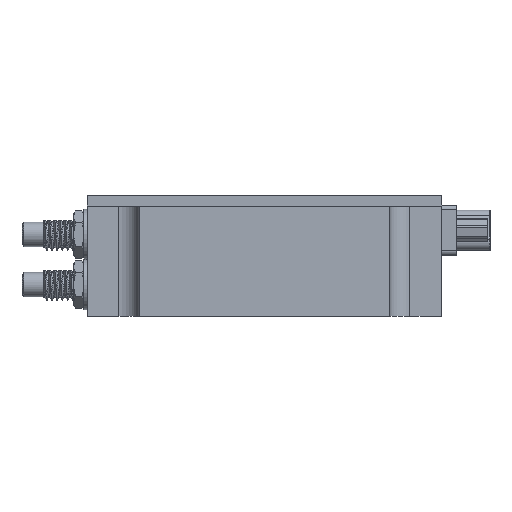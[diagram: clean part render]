
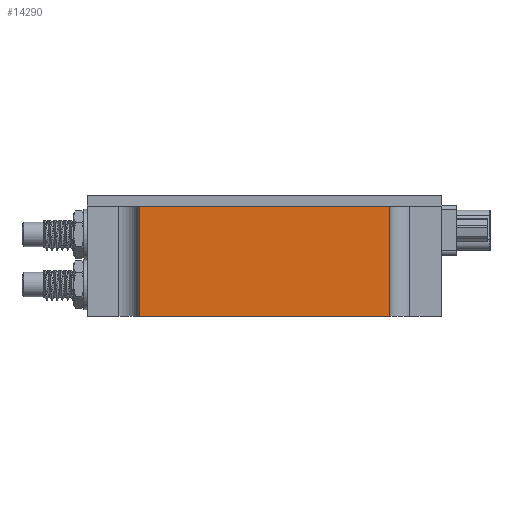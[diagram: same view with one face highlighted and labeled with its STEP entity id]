
A CAD part, front view. The second image highlights one B-rep face of the part: STEP entity #14290.
In plain terms, the highlighted planar face has unit normal (0, -1, 0).
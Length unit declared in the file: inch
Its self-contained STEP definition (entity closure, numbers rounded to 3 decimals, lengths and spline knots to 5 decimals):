
#1010 = EDGE_CURVE ( 'NONE', #12873, #21791, #31655, .T. ) ;
#3828 = CARTESIAN_POINT ( 'NONE',  ( -0.75, -1., 0.66 ) ) ;
#4201 = CARTESIAN_POINT ( 'NONE',  ( -0.75, -1., 0.66 ) ) ;
#4337 = CARTESIAN_POINT ( 'NONE',  ( -0.75, -1., 0. ) ) ;
#4517 = DIRECTION ( 'NONE',  ( 0., 0., -1. ) ) ;
#5383 = CARTESIAN_POINT ( 'NONE',  ( -0.75, -1., 0.66 ) ) ;
#5842 = LINE ( 'NONE', #15478, #9537 ) ;
#7101 = EDGE_CURVE ( 'NONE', #21791, #13615, #32097, .T. ) ;
#8295 = ORIENTED_EDGE ( 'NONE', *, *, #7101, .T. ) ;
#9537 = VECTOR ( 'NONE', #13096, 39.37008 ) ;
#10246 = CARTESIAN_POINT ( 'NONE',  ( -0.75, -1., 0.66 ) ) ;
#11237 = VECTOR ( 'NONE', #4517, 39.37008 ) ;
#11882 = VECTOR ( 'NONE', #28079, 39.37008 ) ;
#12873 = VERTEX_POINT ( 'NONE', #5383 ) ;
#13096 = DIRECTION ( 'NONE',  ( 0., 0., -1. ) ) ;
#13615 = VERTEX_POINT ( 'NONE', #28468 ) ;
#14290 = ADVANCED_FACE ( 'NONE', ( #15450 ), #14728, .F. ) ;
#14728 = PLANE ( 'NONE',  #33331 ) ;
#15450 = FACE_OUTER_BOUND ( 'NONE', #31588, .T. ) ;
#15478 = CARTESIAN_POINT ( 'NONE',  ( 0.75, -1., 0.66 ) ) ;
#17531 = LINE ( 'NONE', #3828, #26235 ) ;
#17592 = DIRECTION ( 'NONE',  ( 0., 1., 0. ) ) ;
#20244 = DIRECTION ( 'NONE',  ( 0., 0., 1. ) ) ;
#21214 = ORIENTED_EDGE ( 'NONE', *, *, #29815, .F. ) ;
#21791 = VERTEX_POINT ( 'NONE', #34092 ) ;
#23278 = CARTESIAN_POINT ( 'NONE',  ( 0.75, -1., 0.66 ) ) ;
#23455 = VERTEX_POINT ( 'NONE', #23278 ) ;
#24831 = DIRECTION ( 'NONE',  ( 1., 0., 0. ) ) ;
#25838 = EDGE_CURVE ( 'NONE', #23455, #13615, #5842, .T. ) ;
#26235 = VECTOR ( 'NONE', #24831, 39.37008 ) ;
#26871 = ORIENTED_EDGE ( 'NONE', *, *, #1010, .T. ) ;
#28079 = DIRECTION ( 'NONE',  ( 1., 0., 0. ) ) ;
#28468 = CARTESIAN_POINT ( 'NONE',  ( 0.75, -1., 0. ) ) ;
#29815 = EDGE_CURVE ( 'NONE', #12873, #23455, #17531, .T. ) ;
#31588 = EDGE_LOOP ( 'NONE', ( #8295, #32003, #21214, #26871 ) ) ;
#31655 = LINE ( 'NONE', #10246, #11237 ) ;
#32003 = ORIENTED_EDGE ( 'NONE', *, *, #25838, .F. ) ;
#32097 = LINE ( 'NONE', #4337, #11882 ) ;
#33331 = AXIS2_PLACEMENT_3D ( 'NONE', #4201, #17592, #20244 ) ;
#34092 = CARTESIAN_POINT ( 'NONE',  ( -0.75, -1., 0. ) ) ;
